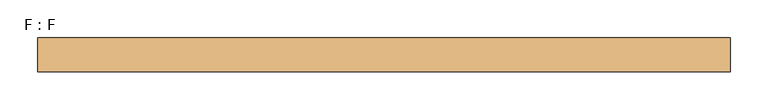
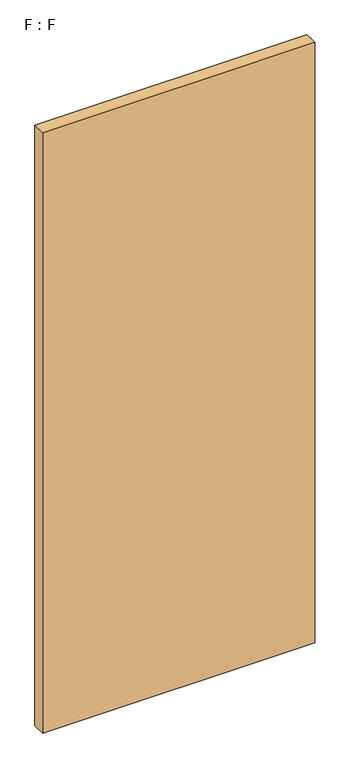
"""IFC4 building model written with IfcOpenShell, lengths in millimetres: door geometry, F : F."""

from ifc_helpers import new_model, si_unit, origin, origin_with_axes, place, context, project, spatial, polyline, outline, extrude, source, transform, mapped, element, save


def f_f_783be8ac(model_context):
    return source(origin(), model_context, "Body", "SweptSolid", [
        extrude(outline(polyline([(-457.2, -22.225), (-457.2, 22.225), (457.2, 22.225), (457.2, -22.225), (-457.2, -22.225)])), origin_with_axes(), (0.0, 0.0, 1.0), 2133.6),
    ])


if __name__ == "__main__":
    model = new_model("IFC4")
    model_context = context("Model", 3, world=origin())
    ifc_project = project(units=[si_unit("LENGTHUNIT", "METRE", prefix="MILLI")], contexts=[model_context])
    site = spatial("IfcSite", under=ifc_project)
    building = spatial("IfcBuilding", under=site)
    placement = place(None, origin())
    f_f_shape = f_f_783be8ac(model_context)
    element("IfcDoor", 1, ObjectType="F : F", at=placement, inside=building, context=model_context, shape_type="MappedRepresentation", body=[
        mapped(f_f_shape, transform((0.0, 0.0, 0.0), x_axis=(1.0, 0.0, 0.0), y_axis=(0.0, 1.0, 0.0), z_axis=(0.0, 0.0, 1.0))),
    ])
    save(model, "model.ifc")
